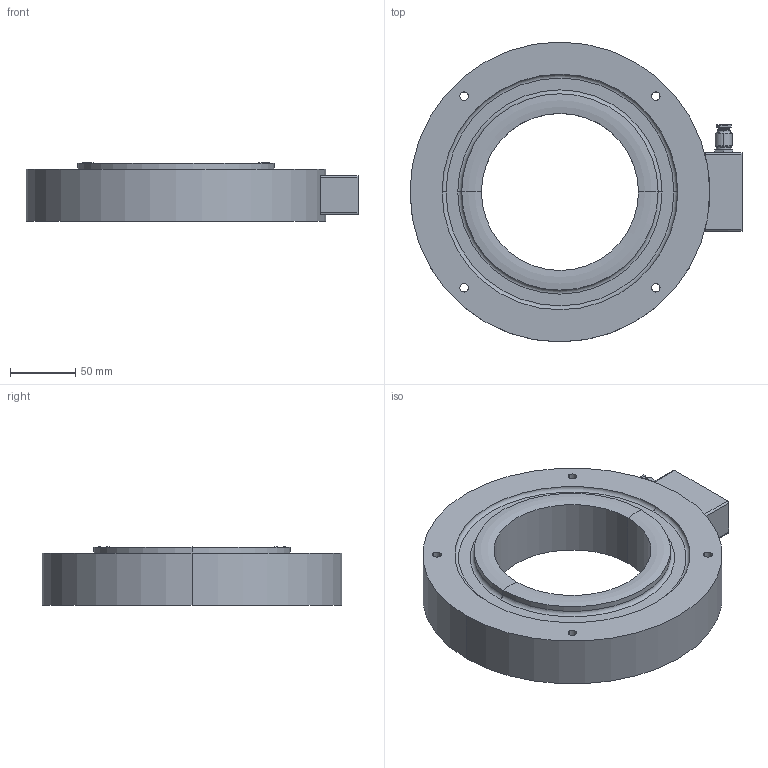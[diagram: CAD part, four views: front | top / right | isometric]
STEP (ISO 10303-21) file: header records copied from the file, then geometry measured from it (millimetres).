
FILE_DESCRIPTION((''),'1');
FILE_NAME('LRLA_75000-100000-125000_kg.step','2018-01-10T16:19:57',(''),(''),'','','');
FILE_SCHEMA(('AUTOMOTIVE_DESIGN { 1 0 10303 214 1 1 1 1 }'));
Products named in the file (4): LRLA 75000-100000-125000_kg; LRLA body 01; LRLA part 02; LRLA cable gland 01
Assembly tree (3 placements, depth 2):
  LRLA 75000-100000-125000_kg
    LRLA body 01
    LRLA part 02
    LRLA cable gland 01
Bounding box: 253.55 x 229 x 44.92 mm (x, y, z)
Volume: 1215429.3 mm3; surface area: 122152.6 mm2
Topology: 3 solids, 3 shells, 99 faces, 216 edges, 130 vertices
Faces by surface type: cylinder 47, plane 34, torus 12, cone 6
Entity records: 3653 total; most frequent: DIRECTION 526, CARTESIAN_POINT 485, ORIENTED_EDGE 432, EDGE_CURVE 216, AXIS2_PLACEMENT_3D 211, VERTEX_POINT 130, EDGE_LOOP 116, LINE 104
